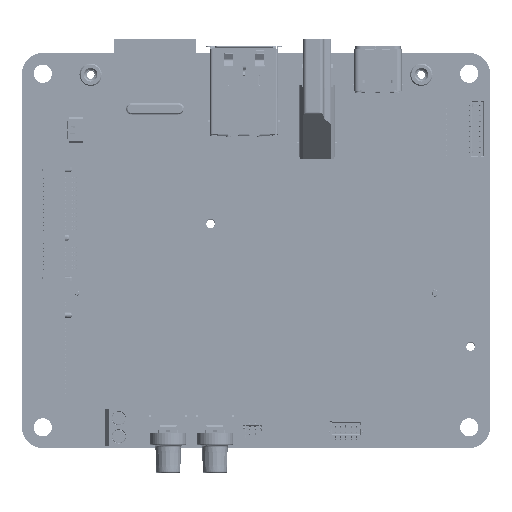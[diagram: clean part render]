
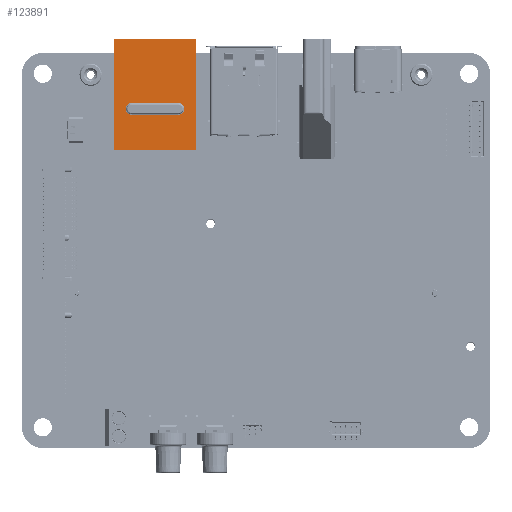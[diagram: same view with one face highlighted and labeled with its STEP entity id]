
A CAD part, front view. The second image highlights one B-rep face of the part: STEP entity #123891.
In plain terms, the highlighted planar face has unit normal (0, -1, 0).
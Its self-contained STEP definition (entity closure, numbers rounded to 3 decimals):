
#117433=DIRECTION('',(-1.,0.,0.));
#117434=VECTOR('',#117433,15.76);
#117435=CARTESIAN_POINT('',(7.88,-6.375,0.));
#117436=LINE('',#117435,#117434);
#117457=DIRECTION('',(0.,0.,-1.));
#117458=VECTOR('',#117457,21.33);
#117459=CARTESIAN_POINT('',(7.88,-6.375,21.33));
#117460=LINE('',#117459,#117458);
#117699=DIRECTION('',(1.,0.,0.));
#117700=VECTOR('',#117699,15.76);
#117701=CARTESIAN_POINT('',(-7.88,-6.375,21.33));
#117702=LINE('',#117701,#117700);
#118425=CARTESIAN_POINT('',(4.5,-6.375,13.4));
#118426=DIRECTION('',(0.,1.,0.));
#118427=DIRECTION('',(0.,0.,1.));
#118428=AXIS2_PLACEMENT_3D('',#118425,#118426,#118427);
#118430=DIRECTION('',(1.,0.,0.));
#118431=VECTOR('',#118430,9.);
#118432=CARTESIAN_POINT('',(-4.5,-6.375,14.537));
#118433=LINE('',#118432,#118431);
#118434=DIRECTION('',(-1.,0.,0.));
#118435=VECTOR('',#118434,9.);
#118436=CARTESIAN_POINT('',(4.5,-6.375,
12.263));
#118437=LINE('',#118436,#118435);
#118438=CARTESIAN_POINT('',(4.5,-6.375,13.4));
#118439=DIRECTION('',(0.,1.,0.));
#118440=DIRECTION('',(1.,0.,0.));
#118441=AXIS2_PLACEMENT_3D('',#118438,#118439,#118440);
#118452=DIRECTION('',(0.,0.,1.));
#118453=VECTOR('',#118452,21.33);
#118454=CARTESIAN_POINT('',(-7.88,-6.375,0.));
#118455=LINE('',#118454,#118453);
#118706=CARTESIAN_POINT('',(-4.5,-6.375,13.4));
#118707=DIRECTION('',(0.,1.,0.));
#118708=DIRECTION('',(0.,0.,-1.));
#118709=AXIS2_PLACEMENT_3D('',#118706,#118707,#118708);
#120833=CARTESIAN_POINT('',(-4.5,-6.375,14.537));
#120835=VERTEX_POINT('',#120833);
#120954=CARTESIAN_POINT('',(7.88,-6.375,0.));
#120956=VERTEX_POINT('',#120954);
#120983=CARTESIAN_POINT('',(-7.88,-6.375,21.33));
#120984=CARTESIAN_POINT('',(7.88,-6.375,21.33));
#120985=VERTEX_POINT('',#120983);
#120986=VERTEX_POINT('',#120984);
#121171=CARTESIAN_POINT('',(-7.88,-6.375,0.));
#121172=VERTEX_POINT('',#121171);
#121189=CARTESIAN_POINT('',(4.5,-6.375,14.537));
#121190=CARTESIAN_POINT('',(5.637,-6.375,13.4));
#121191=VERTEX_POINT('',#121189);
#121192=VERTEX_POINT('',#121190);
#121193=CARTESIAN_POINT('',(4.5,-6.375,12.263));
#121194=VERTEX_POINT('',#121193);
#121389=CARTESIAN_POINT('',(-4.5,-6.375,
12.263));
#121390=VERTEX_POINT('',#121389);
#123867=CARTESIAN_POINT('',(7.5,-6.375,15.4));
#123868=DIRECTION('',(0.,1.,0.));
#123869=DIRECTION('',(-0.707,0.,0.707));
#123870=AXIS2_PLACEMENT_3D('',#123867,#123868,#123869);
#123871=PLANE('',#123870);
#123872=ORIENTED_EDGE('',*,*,#121895,.T.);
#123874=ORIENTED_EDGE('',*,*,#123873,.T.);
#123875=ORIENTED_EDGE('',*,*,#122438,.T.);
#123876=ORIENTED_EDGE('',*,*,#121990,.T.);
#123877=EDGE_LOOP('',(#123872,#123874,#123875,#123876));
#123878=FACE_OUTER_BOUND('',#123877,.F.);
#123880=ORIENTED_EDGE('',*,*,#123879,.F.);
#123882=ORIENTED_EDGE('',*,*,#123881,.F.);
#123884=ORIENTED_EDGE('',*,*,#123883,.F.);
#123886=ORIENTED_EDGE('',*,*,#123885,.F.);
#123888=ORIENTED_EDGE('',*,*,#123887,.F.);
#123889=EDGE_LOOP('',(#123880,#123882,#123884,#123886,#123888));
#123890=FACE_BOUND('',#123889,.F.);
#123891=ADVANCED_FACE('',(#123878,#123890),#123871,.F.);
#118429=CIRCLE('',#118428,1.137);
#118442=CIRCLE('',#118441,1.137);
#118710=CIRCLE('',#118709,1.137);
#121895=EDGE_CURVE('',#120956,#121172,#117436,.T.);
#121990=EDGE_CURVE('',#120986,#120956,#117460,.T.);
#122438=EDGE_CURVE('',#120985,#120986,#117702,.T.);
#123873=EDGE_CURVE('',#121172,#120985,#118455,.T.);
#123879=EDGE_CURVE('',#121191,#121192,#118429,.T.);
#123881=EDGE_CURVE('',#120835,#121191,#118433,.T.);
#123883=EDGE_CURVE('',#121390,#120835,#118710,.T.);
#123885=EDGE_CURVE('',#121194,#121390,#118437,.T.);
#123887=EDGE_CURVE('',#121192,#121194,#118442,.T.);
